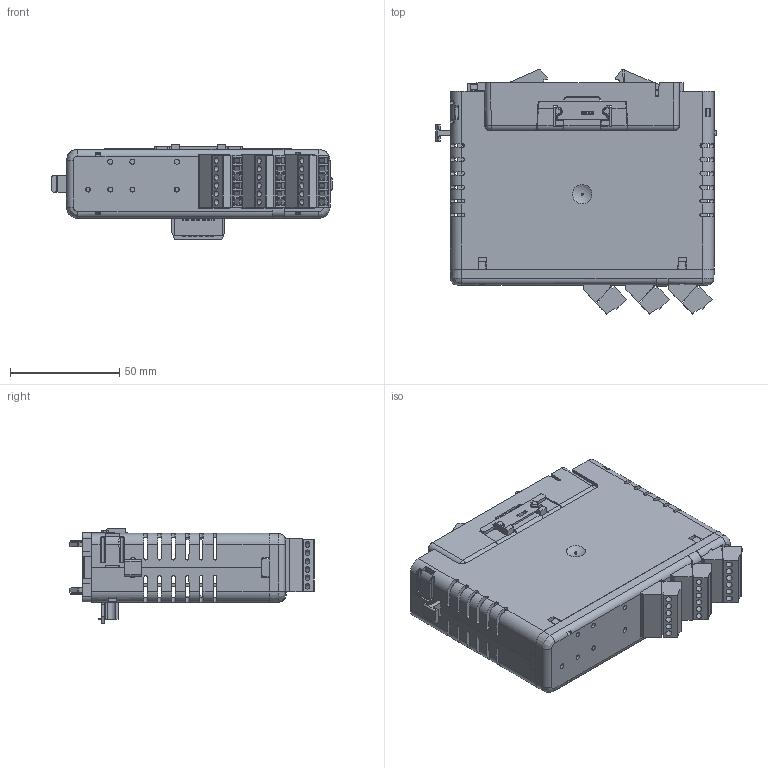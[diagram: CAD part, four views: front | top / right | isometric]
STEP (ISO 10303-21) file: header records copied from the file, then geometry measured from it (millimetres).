
FILE_DESCRIPTION( ( 'Unknown' ), '1' );
FILE_NAME( 'U:/ericp/3D_models_for_customers/CSMSTRxx_DSP/Modules/CSPID2xx.stp', 'Unknown', ( 'Unknown' ), ( 'Unknown' ), 'PSStep 17.0.49', 'Unknown', ' ' );
FILE_SCHEMA( ( 'AUTOMOTIVE_DESIGN { 1 0 10303 214 1 1 1 1 }' ) );
Length unit declared in the file: millimetre
Products named in the file (38): SB2A2460; PB02912x; SCIOLD07; SCIOLD08; SCIOLD1E; CNEP0080; CNEP0080_terminal; CNEP0080_housing; sb2b2460; cntp06g0; cntp06g0-oa0; cntp06g0-oa1; SB1A2870; HWM03006; WRJF0202; sb2b2451; pb02911c; hd08b0ac; PB02913x; CNEP0121; CNEP0122; cntp062a; cntp06xx-oa3; SB1A2490; br112985; br112987; BS112986; sb1a2721; cntp064a; cntp06xx; cntp063a; cntp06xx-oa2; Assem1; ca299100; ca112990; CA299102; CV298804
Assembly tree (46 placements, depth 5):
  Assem1
    ca299100
    ca112990
    CA299102
    CV298804
    sb1a2721
      sb2b2460
        cntp06g0
        cntp06g0-oa0
        cntp06g0-oa1
        SB2A2460
          PB02912x
          SCIOLD07  x3
          SCIOLD08
          SCIOLD1E
      sb2b2451
        pb02911c
        hd08b0ac
    cntp064a
      cntp06xx
    cntp063a
      cntp06xx-oa2
    cntp062a
      cntp06xx-oa3
    SB1A2490
      br112985
      br112987
      BS112986
      PB02913x
        PB02913x
        CNEP0121
        CNEP0122
        CNEP0080
          CNEP0080_terminal  x8
          CNEP0080_housing
      SB1A2870
        HWM03006
        WRJF0202
Bounding box: 128.14 x 111.65 x 43.84 mm (x, y, z)
Volume: 111190.7 mm3; surface area: 143155 mm2
Topology: 35 solids, 35 shells, 5015 faces, 13718 edges, 8950 vertices
Faces by surface type: plane 3897, cylinder 831, cone 129, bspline 128, torus 18, sphere 12
Full cylindrical faces by diameter (mm): 0.813 x6, 0.889 x12, 0.914 x18, 1.016 x12, 1.022 x8, 1.372 x18, 1.397 x8, 1.524 x3, 1.651 x4, 1.776 x48, 1.778 x3, 2.286 x23, 2.692 x18, 3.048 x4
Entity records: 197599 total; most frequent: CARTESIAN_POINT 40915, ORIENTED_EDGE 25038, DIRECTION 23037, EDGE_CURVE 12519, LINE 9981, VECTOR 9981, VERTEX_POINT 8298, AXIS2_PLACEMENT_3D 6528
